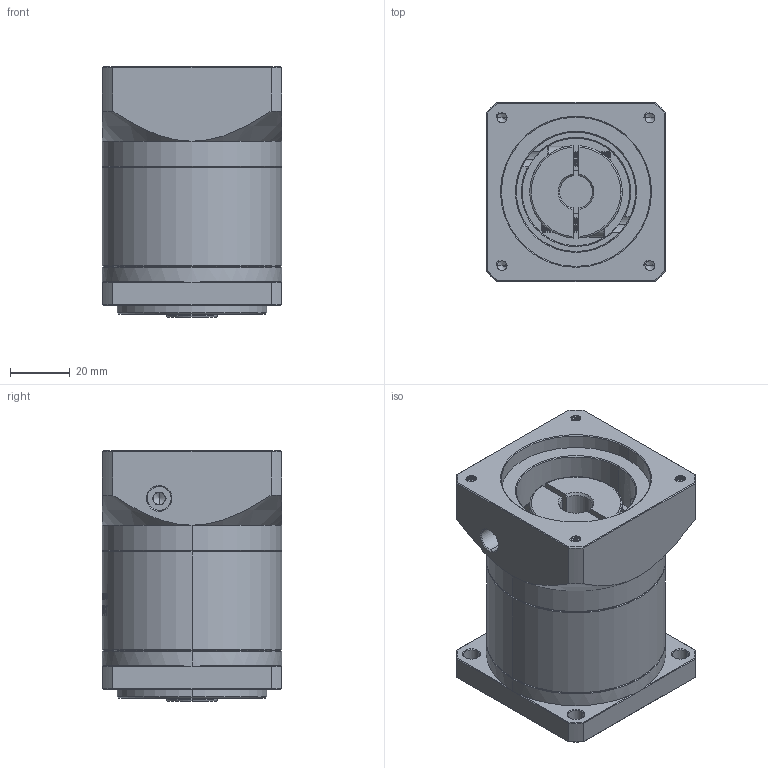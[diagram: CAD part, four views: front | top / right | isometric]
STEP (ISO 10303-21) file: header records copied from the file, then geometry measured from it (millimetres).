
FILE_DESCRIPTION (( 'STEP AP214' ), '1' );
FILE_NAME ('ZF060-K10-L1-P2-11-50-70-M4.step', '2023-08-16T04:29:30', ( '' ), ( '' ), 'SwSTEP 2.0', 'SolidWorks 2016', '' );
FILE_SCHEMA (( 'AUTOMOTIVE_DESIGN' ));
Length unit declared in the file: millimetre
Products named in the file (1): ZF060-K10-L1-P2-11-50-70-M4
Bounding box: 60 x 60 x 84 mm (x, y, z)
Volume: 214701.7 mm3; surface area: 42726 mm2
Topology: 6 solids, 6 shells, 1669 faces, 4524 edges, 2937 vertices
Faces by surface type: plane 787, bspline 347, cylinder 289, cone 228, torus 18
Entity records: 89897 total; most frequent: CARTESIAN_POINT 33375, ORIENTED_EDGE 9024, DIRECTION 6498, EDGE_CURVE 4512, VERTEX_POINT 2937, LINE 2312, VECTOR 2312, AXIS2_PLACEMENT_3D 2093
